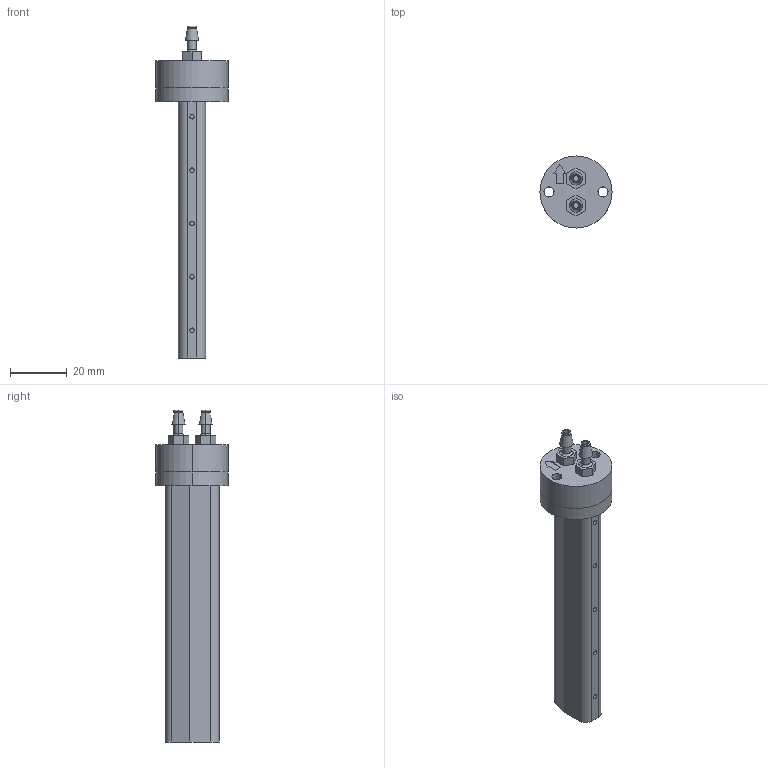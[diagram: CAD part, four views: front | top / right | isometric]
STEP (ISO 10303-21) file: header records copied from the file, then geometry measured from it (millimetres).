
FILE_DESCRIPTION (( 'STEP AP214' ), '1' );
FILE_NAME ('VELOCITY 4.0 IN ROUND FLANGE.STEP', '2026-03-04T13:07:54', ( '' ), ( '' ), 'SwSTEP 2.0', 'SolidWorks 2012', '' );
FILE_SCHEMA (( 'AUTOMOTIVE_DESIGN' ));
Length unit declared in the file: inch
Products named in the file (1): VELOCITY 4.0 IN ROUND FLANGE
Bounding box: 25.4 x 25.4 x 117.12 mm (x, y, z)
Surface area: 8393.2 mm2 (no closed solid volume)
Topology: 0 solids, 4 shells, 99 faces, 265 edges, 174 vertices
Faces by surface type: cylinder 51, plane 35, torus 9, cone 4
Entity records: 4693 total; most frequent: CARTESIAN_POINT 895, DIRECTION 530, ORIENTED_EDGE 466, EDGE_CURVE 265, AXIS2_PLACEMENT_3D 197, VERTEX_POINT 174, VECTOR 136, LINE 136
